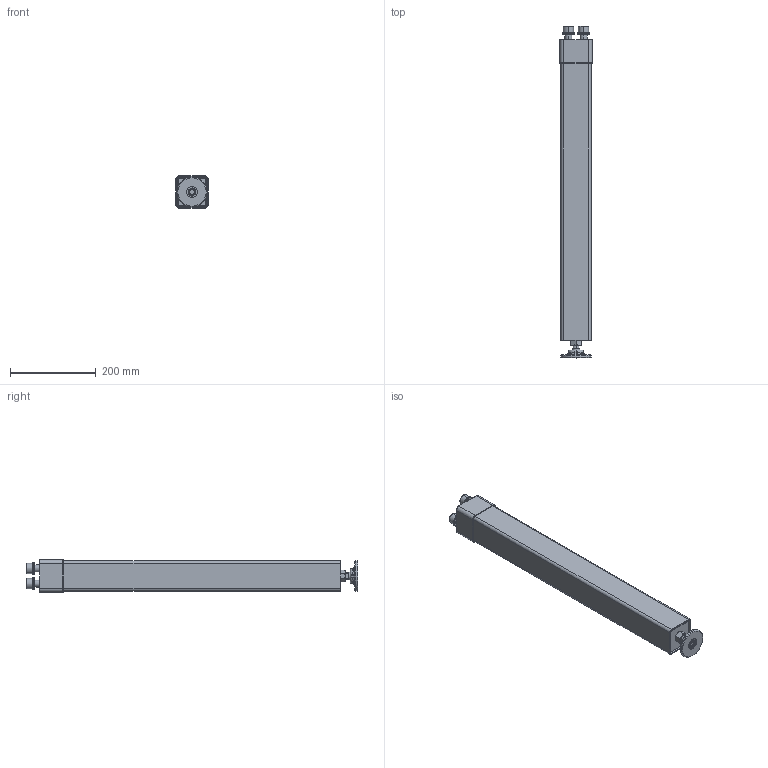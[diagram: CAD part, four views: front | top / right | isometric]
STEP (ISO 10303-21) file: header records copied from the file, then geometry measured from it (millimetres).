
FILE_DESCRIPTION (( 'STEP AP203' ), '1' );
FILE_NAME ('160858.X_750.step', '2014-08-11T17:00:47', ( 'User' ), ( '' ), 'SwSTEP 2.0', 'SolidWorks 2014', '' );
FILE_SCHEMA (( 'CONFIG_CONTROL_DESIGN' ));
Length unit declared in the file: millimetre
Products named in the file (11): 160858.X_750; M16x1,5 Spindel 80_ohne gew; Hexagon Nut ISO 4032 - M12 - W - N_Hexagon Nut ISO 4032 - M12 - W - N; 160855.X_ Verstelleinheit_Foto^160858.X_750_Detailliert; 160873 Manschette_Foto_V1 Kreis; M16x50 DIN 912_Detailliert; Ring DIN 127 A16; Sechskantmutter M16x1,5 DIN ISO 8673_Detailliert; Fußrohr^160858.X_750; M16x50 DIN 912_Einfach; 160863.T2_Teller 70^160855.X_ Verstelleinheit_Foto_160858.X_750
Assembly tree (11 placements, depth 3):
  160858.X_750
    Fußrohr^160858.X_750
    160855.X_ Verstelleinheit_Foto^160858.X_750_Detailliert
      160863.T2_Teller 70^160855.X_ Verstelleinheit_Foto_160858.X_750
      M16x1,5 Spindel 80_ohne gew
      Hexagon Nut ISO 4032 - M12 - W - N_Hexagon Nut ISO 4032 - M12 - W - N
    160873 Manschette_Foto_V1 Kreis
    M16x50 DIN 912_Detailliert
    Ring DIN 127 A16  x2
    Sechskantmutter M16x1,5 DIN ISO 8673_Detailliert
    M16x50 DIN 912_Einfach
Bounding box: 75 x 773.5 x 75 mm (x, y, z)
Volume: 867760 mm3; surface area: 443594.7 mm2
Topology: 10 solids, 10 shells, 293 faces, 634 edges, 371 vertices
Faces by surface type: cylinder 90, plane 79, torus 66, cone 58
Entity records: 8985 total; most frequent: CARTESIAN_POINT 1517, DIRECTION 1478, ORIENTED_EDGE 1208, AXIS2_PLACEMENT_3D 624, EDGE_CURVE 604, VERTEX_POINT 355, CIRCLE 330, EDGE_LOOP 307
